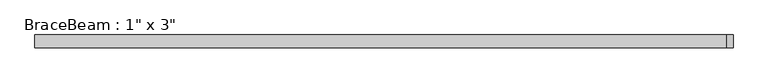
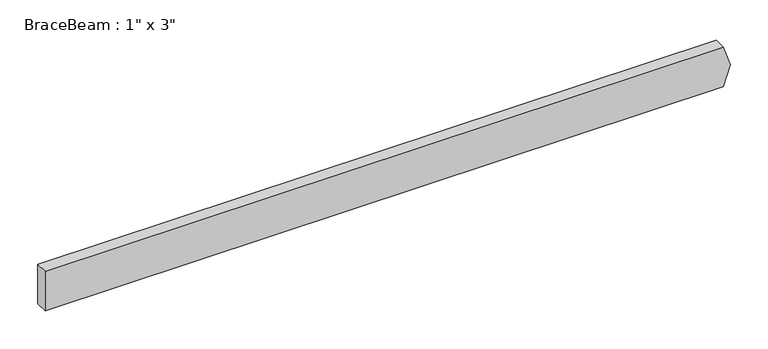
"""IFC4 building model written with IfcOpenShell, lengths in millimetres: beam geometry."""

from ifc_helpers import new_model, si_unit, frame, origin, place, context, project, spatial, polyline, outline, extrude, source, transform, mapped, element, save


def beam_542edc7c(model_context):
    return source(origin(), model_context, "Body", "SweptSolid", [
        extrude(outline(polyline([(31.75, -539.75), (-31.75, -539.75), (-31.75, 495.988783), (0.0, 506.3516302), (31.75, 495.988783), (31.75, -539.75)])), frame((0.0, -9.525, 0.0), z_axis=(0.0, 1.0, 0.0), x_axis=(0.0, 0.0, 1.0)), (0.0, 0.0, 1.0), 19.05),
    ])


if __name__ == "__main__":
    model = new_model("IFC4")
    model_context = context("Model", 3, world=origin())
    ifc_project = project(units=[si_unit("LENGTHUNIT", "METRE", prefix="MILLI")], contexts=[model_context])
    site = spatial("IfcSite", under=ifc_project)
    building = spatial("IfcBuilding", under=site)
    placement = place(None, origin())
    beam_shape = beam_542edc7c(model_context)
    element("IfcBeam", 1, ObjectType="BraceBeam : 1\" x 3\"", at=placement, inside=building, context=model_context, shape_type="MappedRepresentation", body=[
        mapped(beam_shape, transform((0.0, 0.0, 0.0), x_axis=(1.0, 0.0, 0.0), y_axis=(0.0, 1.0, 0.0), z_axis=(0.0, 0.0, 1.0))),
    ])
    save(model, "model.ifc")
